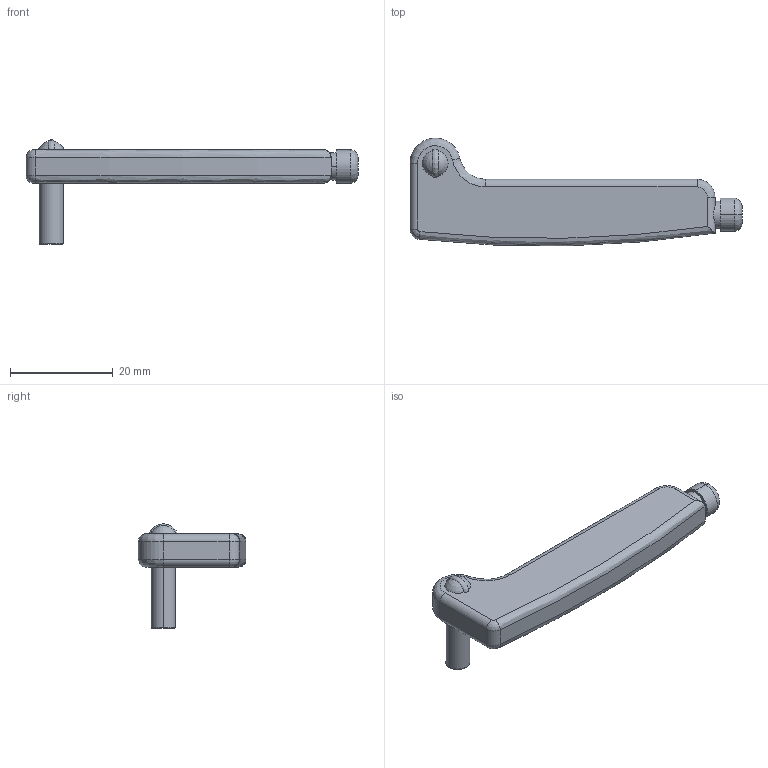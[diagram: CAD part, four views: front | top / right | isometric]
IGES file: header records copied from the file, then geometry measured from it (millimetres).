
Start section:  PTC IGES file: antenna-1200087-sierra_prt.igs
Global section: file name: antenna-1200087-sierra_prt.igs; native system: Pro/ENGINEER by Parametric Technology Corporation; preprocessor: 2000030; author: ECaille; organization: Unknown; date: 000803.091920; units: millimetre
Bounding box: 64.7 x 21 x 20.35 mm (x, y, z)
Surface area: 2815.4 mm2 (no closed solid volume)
Topology: 0 solids, 0 shells, 46 faces, 304 edges, 399 vertices
Faces by surface type: revolution 36, bspline 10
